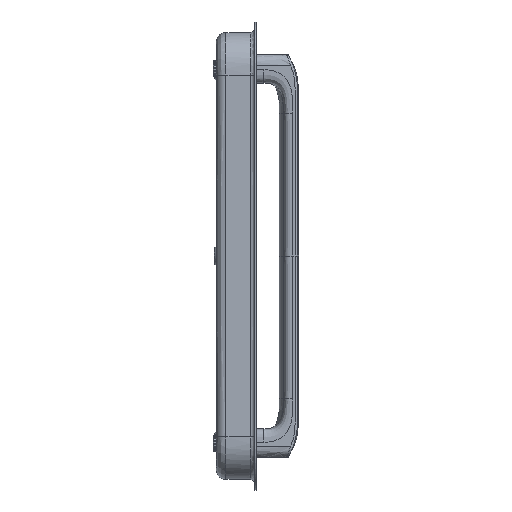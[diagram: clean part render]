
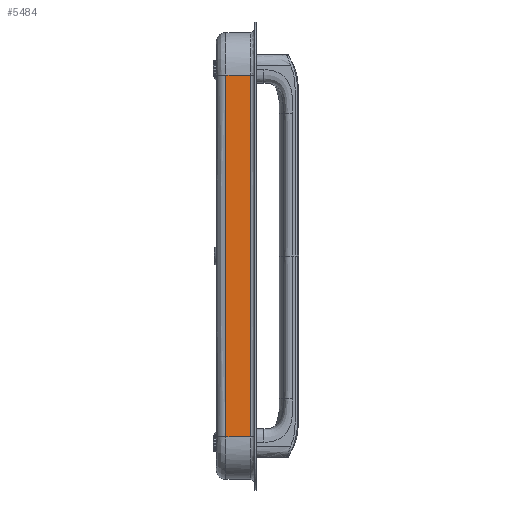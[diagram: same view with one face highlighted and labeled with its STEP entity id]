
A CAD part, left-side view. The second image highlights one B-rep face of the part: STEP entity #5484.
In plain terms, the highlighted free-form (B-spline) face has degree [2, 1] with [3, 2] control points.
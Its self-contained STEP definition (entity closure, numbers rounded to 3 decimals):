
#133=B_SPLINE_SURFACE_WITH_KNOTS('',2,1,((#14536,#14537),(#14538,#14539),
(#14540,#14541)),.UNSPECIFIED.,.F.,.F.,.F.,(3,3),(2,2),(-1.,0.),(0.,2.4),
 .UNSPECIFIED.);
#414=B_SPLINE_CURVE_WITH_KNOTS('',3,(#12890,#12891,#12892,#12893),
 .UNSPECIFIED.,.F.,.F.,(4,4),(0.,18.943),.UNSPECIFIED.);
#438=B_SPLINE_CURVE_WITH_KNOTS('',2,(#14544,#14545,#14546),
 .UNSPECIFIED.,.F.,.F.,(3,3),(0.,18.943),.UNSPECIFIED.);
#908=FACE_OUTER_BOUND('',#1255,.T.);
#1255=EDGE_LOOP('',(#4720,#4721,#4722,#4723));
#1722=LINE('',#14547,#2152);
#1723=LINE('',#14548,#2153);
#2152=VECTOR('',#6641,10.);
#2153=VECTOR('',#6642,10.);
#2660=VERTEX_POINT('',#12732);
#2661=VERTEX_POINT('',#12889);
#2679=VERTEX_POINT('',#14542);
#2680=VERTEX_POINT('',#14543);
#3343=EDGE_CURVE('',#2661,#2660,#414,.T.);
#3384=EDGE_CURVE('',#2679,#2680,#438,.T.);
#3385=EDGE_CURVE('',#2680,#2661,#1722,.T.);
#3386=EDGE_CURVE('',#2660,#2679,#1723,.T.);
#4720=ORIENTED_EDGE('',*,*,#3384,.T.);
#4721=ORIENTED_EDGE('',*,*,#3385,.T.);
#4722=ORIENTED_EDGE('',*,*,#3343,.T.);
#4723=ORIENTED_EDGE('',*,*,#3386,.T.);
#5484=ADVANCED_FACE('',(#908),#133,.T.);
#6641=DIRECTION('',(0.,0.,1.));
#6642=DIRECTION('',(0.,0.,-1.));
#12732=CARTESIAN_POINT('',(153.771,410.458,-2.));
#12889=CARTESIAN_POINT('',(153.771,221.027,-2.));
#12890=CARTESIAN_POINT('Ctrl Pts',(153.771,221.027,-2.));
#12891=CARTESIAN_POINT('Ctrl Pts',(153.771,284.171,-2.));
#12892=CARTESIAN_POINT('Ctrl Pts',(153.771,347.315,-2.));
#12893=CARTESIAN_POINT('Ctrl Pts',(153.771,410.458,-2.));
#14536=CARTESIAN_POINT('Ctrl Pts',(153.771,221.027,0.));
#14537=CARTESIAN_POINT('Ctrl Pts',(153.771,221.027,-24.));
#14538=CARTESIAN_POINT('Ctrl Pts',(153.771,315.743,0.));
#14539=CARTESIAN_POINT('Ctrl Pts',(153.771,315.743,-24.));
#14540=CARTESIAN_POINT('Ctrl Pts',(153.771,410.458,0.));
#14541=CARTESIAN_POINT('Ctrl Pts',(153.771,410.458,-24.));
#14542=CARTESIAN_POINT('',(153.771,410.458,-15.));
#14543=CARTESIAN_POINT('',(153.771,221.027,-15.));
#14544=CARTESIAN_POINT('Ctrl Pts',(153.771,410.458,-15.));
#14545=CARTESIAN_POINT('Ctrl Pts',(153.771,315.743,-15.));
#14546=CARTESIAN_POINT('Ctrl Pts',(153.771,221.027,-15.));
#14547=CARTESIAN_POINT('',(153.771,221.027,-15.));
#14548=CARTESIAN_POINT('',(153.771,410.458,-2.));
